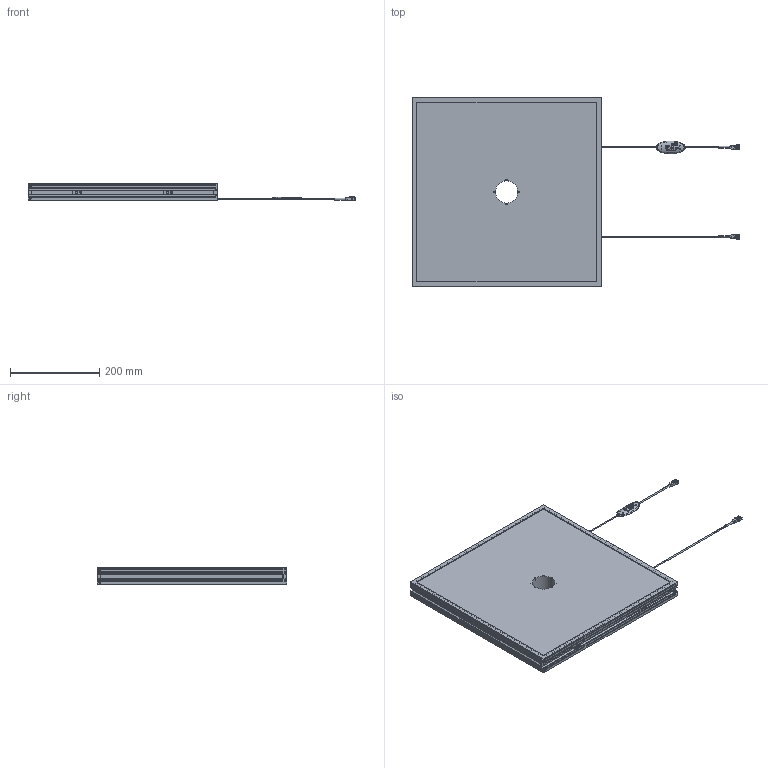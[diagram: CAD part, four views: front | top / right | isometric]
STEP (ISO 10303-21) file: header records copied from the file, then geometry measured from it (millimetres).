
FILE_DESCRIPTION( ('This file contains a STEP AP42 implementation' ,'as created by ZW3D STEP Interface translator.') ,'2;1' );
FILE_NAME( 'VDFHL-400400_DRAWING_3D1.stp' ,'25 911.152911', (''), ('ZWCAD Software Co.'), 'Version 1.0', 'ZW3D to STEP translator', '' );
FILE_SCHEMA(('AUTOMOTIVE_DESIGN { 1 0 10303 214 1 1 1 1 }'));
Length unit declared in the file: millimetre
Products named in the file (1): 0
Bounding box: 733.5 x 423 x 38.6 mm (x, y, z)
Volume: 1019026.1 mm3; surface area: 939157.5 mm2
Topology: 1 solids, 59 shells, 1582 faces, 4213 edges, 2856 vertices
Faces by surface type: plane 985, cylinder 421, cone 158, bspline 10, torus 8
Full cylindrical faces by diameter (mm): 1.6 x130, 2 x8, 2.2 x24, 3 x4, 50 x1, 58 x1
Entity records: 52304 total; most frequent: CARTESIAN_POINT 11043, ORIENTED_EDGE 8298, DIRECTION 7745, EDGE_CURVE 4149, VECTOR 2959, LINE 2959, VERTEX_POINT 2854, AXIS2_PLACEMENT_3D 2393
